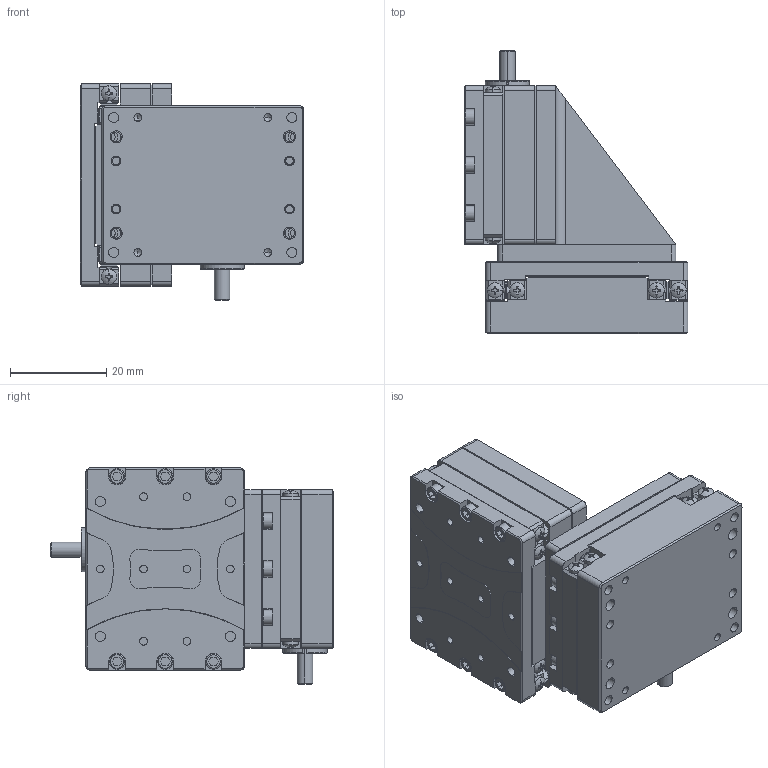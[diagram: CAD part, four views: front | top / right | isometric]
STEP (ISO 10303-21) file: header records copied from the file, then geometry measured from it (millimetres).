
FILE_DESCRIPTION (( 'STEP AP214' ), '1' );
FILE_NAME ('N56.XZ10E-B1闭环二维直线压电马达3D图（25.08.01）.STEP', '2026-05-27T01:22:26', ( '微软用户' ), ( '微软中国' ), 'SwSTEP 2.0', 'SolidWorks 2016', '' );
FILE_SCHEMA (( 'AUTOMOTIVE_DESIGN' ));
Length unit declared in the file: millimetre
Products named in the file (1): N56.XZ10E-B1闭环二维直线压电马达3D图（25.08.01）
Bounding box: 46.5 x 58.9 x 44.9 mm (x, y, z)
Volume: 41300.5 mm3; surface area: 35021.6 mm2
Topology: 89 solids, 89 shells, 2253 faces, 5611 edges, 3606 vertices
Faces by surface type: plane 1119, cylinder 894, cone 166, torus 48, sphere 26
Entity records: 93212 total; most frequent: CARTESIAN_POINT 12769, DIRECTION 11763, ORIENTED_EDGE 11014, EDGE_CURVE 5507, AXIS2_PLACEMENT_3D 4384, VERTEX_POINT 3606, VECTOR 2995, LINE 2995
